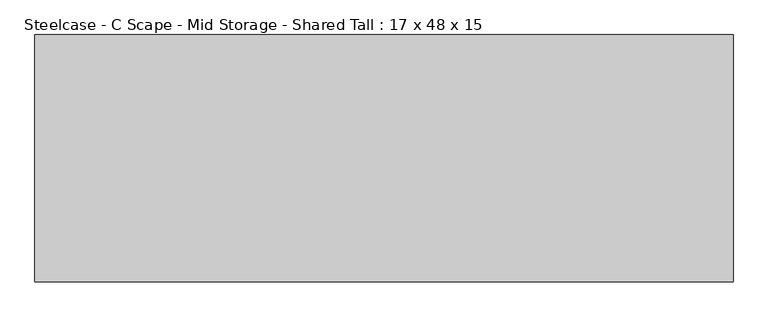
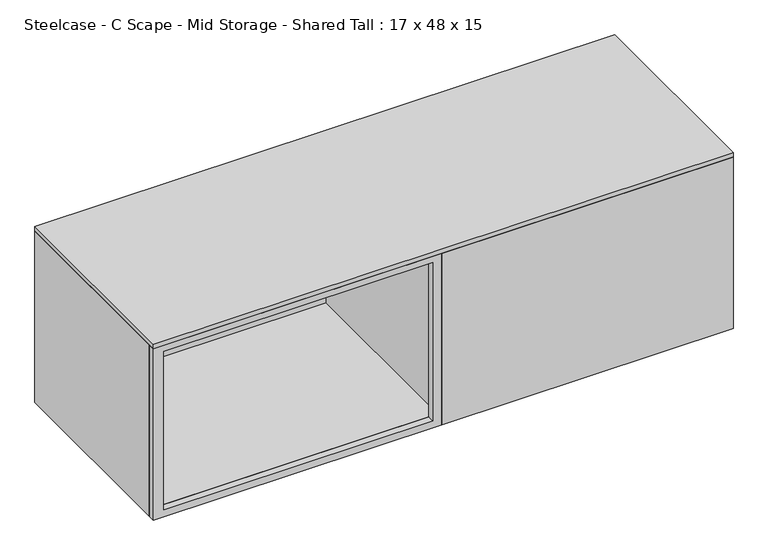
"""IFC4 building model written with IfcOpenShell, lengths in millimetres: furniture geometry, Steelcase - C Scape - Mid Storage - Shared Tall : 17 x 48 x 15."""

from ifc_helpers import new_model, si_unit, frame, origin, place, context, project, spatial, polyline, outline, extrude, faceted_brep, source, transform, mapped, element, save


def steelcase_c_scape_mid_storage_shared_tall_17_x_48_x_15_35d0452b(model_context):
    return source(origin(), model_context, "Body", "SolidModel", [
        faceted_brep([(612.775, 215.9, 1219.279375), (0.0, 215.9, 1219.279375), (0.0, -201.2949309, 1219.279375), (21.9711633, -201.2949309, 1219.279375), (21.9711633, 206.3755809, 1219.279375), (606.425, 206.3755809, 1219.279375), (606.425, -215.9, 1219.279375), (1219.2, -215.9, 1219.279375), (1219.2, 206.3755809, 1219.279375), (1197.102, 206.3755809, 1219.279375), (1197.102, -201.2949309, 1219.279375), (612.775, -201.2949309, 1219.279375), (1219.2, 206.3755809, 838.2), (1219.2, -215.9, 838.2), (606.425, -215.9, 838.2), (606.425, -201.2949309, 838.2), (0.0, -201.2949309, 838.2), (0.0, 215.9, 838.2), (612.775, 215.9, 838.2), (612.775, 206.3755809, 838.2), (606.425, -201.2949309, 853.4399855), (21.9711633, -201.2949309, 853.4399855), (21.9711633, 206.3755809, 853.4399855), (606.425, 206.3755809, 853.4399855), (612.775, 206.3755809, 853.4399855), (1197.102, 206.3755809, 853.4399855), (1197.102, -201.2949309, 853.4399855), (612.775, -201.2949309, 853.4399855)], [[[0, 1, 2, 3, 4, 5, 6, 7, 8, 9, 10, 11]], [[12, 13, 14, 15, 16, 17, 18, 19]], [[1, 0, 18, 17]], [[2, 1, 17, 16]], [[3, 2, 16, 15, 20, 21]], [[4, 3, 21, 22]], [[5, 4, 22, 23]], [[6, 5, 23, 20, 15, 14]], [[7, 6, 14, 13]], [[8, 7, 13, 12]], [[9, 8, 12, 19, 24, 25]], [[10, 9, 25, 26]], [[11, 10, 26, 27]], [[0, 11, 27, 24, 19, 18]], [[21, 20, 23, 22]], [[25, 24, 27, 26]]]),
        extrude(outline(polyline([(1219.279375, 1219.2), (1219.279375, 612.775), (838.2, 612.775), (838.2, 1219.2), (1219.279375, 1219.2)]), holes=[polyline([(1205.8427824, 1197.102), (853.4399855, 1197.102), (853.4399855, 631.698), (1205.8427824, 631.698), (1205.8427824, 1197.102)])]), frame((0.0, 206.3755809, 0.0), z_axis=(0.0, 1.0, 0.0), x_axis=(0.0, 0.0, 1.0)), (0.0, 0.0, 1.0), 9.5244191),
        extrude(outline(polyline([(1219.279375, 606.425), (1219.279375, 0.0), (838.2, 0.0), (838.2, 606.425), (1219.279375, 606.425)]), holes=[polyline([(1205.8427824, 587.502), (853.4399855, 587.502), (853.4399855, 21.9711633), (1205.8427824, 21.9711633), (1205.8427824, 587.502)])]), frame((0.0, -215.9, 0.0), z_axis=(0.0, 1.0, 0.0), x_axis=(0.0, 0.0, 1.0)), (0.0, 0.0, 1.0), 14.6050691),
        extrude(outline(polyline([(1219.2, -215.9), (0.0, -215.9), (0.0, 215.9), (1219.2, 215.9), (1219.2, -215.9)])), frame((0.0, 0.0, 1219.279375), z_axis=(0.0, 0.0, 1.0), x_axis=(1.0, 0.0, 0.0)), (0.0, 0.0, 1.0), 10.080625),
    ])


if __name__ == "__main__":
    model = new_model("IFC4")
    model_context = context("Model", 3, world=origin())
    ifc_project = project(units=[si_unit("LENGTHUNIT", "METRE", prefix="MILLI")], contexts=[model_context])
    site = spatial("IfcSite", under=ifc_project)
    building = spatial("IfcBuilding", under=site)
    placement = place(None, origin())
    steelcase_c_scape_mid_storage_shared_tall_17_x_48_x_15_shape = steelcase_c_scape_mid_storage_shared_tall_17_x_48_x_15_35d0452b(model_context)
    element("IfcFurniture", 1, ObjectType="Steelcase - C Scape - Mid Storage - Shared Tall : 17 x 48 x 15", at=placement, inside=building, context=model_context, shape_type="MappedRepresentation", body=[
        mapped(steelcase_c_scape_mid_storage_shared_tall_17_x_48_x_15_shape, transform((0.0, 0.0, 0.0), x_axis=(1.0, 0.0, 0.0), y_axis=(0.0, 1.0, 0.0), z_axis=(0.0, 0.0, 1.0))),
    ])
    save(model, "model.ifc")
